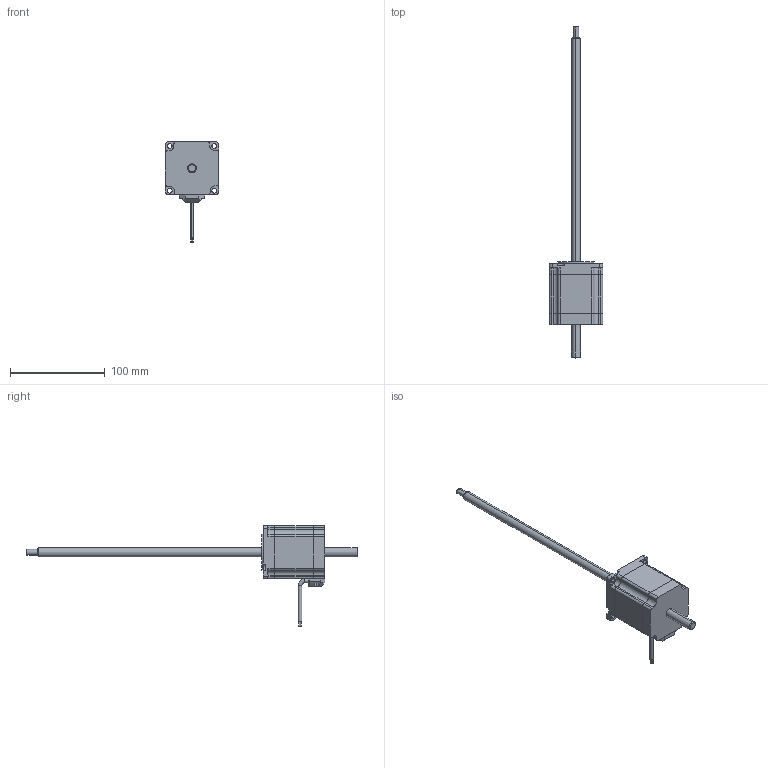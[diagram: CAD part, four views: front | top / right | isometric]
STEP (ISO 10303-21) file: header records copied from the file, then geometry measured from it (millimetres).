
FILE_DESCRIPTION (( 'STEP AP203' ), '1' );
FILE_NAME ('57N265-5.08-4-4-350-001.STEP', '2020-01-11T02:09:10', ( '' ), ( '' ), 'SwSTEP 2.0', 'SolidWorks 2017', '' );
FILE_SCHEMA (( 'CONFIG_CONTROL_DESIGN' ));
Length unit declared in the file: millimetre
Products named in the file (1): 57N265-5.08-4-4-350-001
Bounding box: 56.2 x 350 x 106.2 mm (x, y, z)
Volume: 208837.6 mm3; surface area: 34419.1 mm2
Topology: 2 solids, 2 shells, 202 faces, 545 edges, 359 vertices
Faces by surface type: cylinder 101, plane 93, cone 6, torus 2
Entity records: 6529 total; most frequent: CARTESIAN_POINT 1197, DIRECTION 1134, ORIENTED_EDGE 1090, EDGE_CURVE 545, AXIS2_PLACEMENT_3D 404, VERTEX_POINT 359, LINE 326, VECTOR 326
